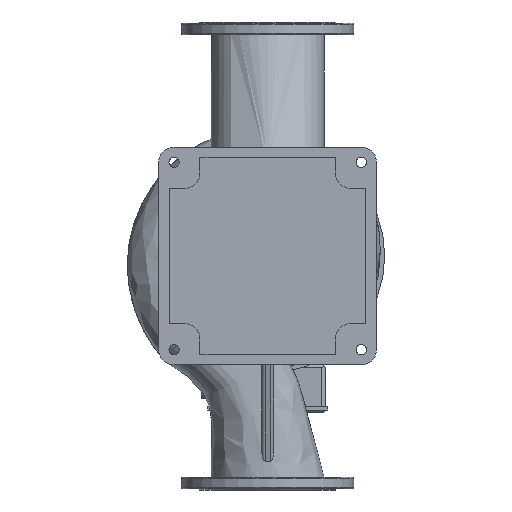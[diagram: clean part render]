
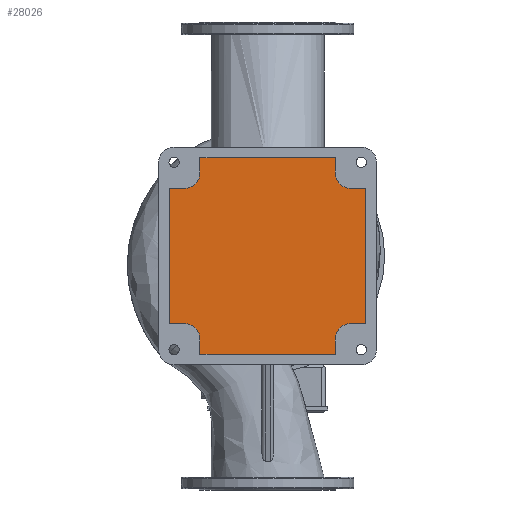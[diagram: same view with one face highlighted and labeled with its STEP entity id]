
A CAD part, front view. The second image highlights one B-rep face of the part: STEP entity #28026.
In plain terms, the highlighted planar face has unit normal (0, -1, 0).
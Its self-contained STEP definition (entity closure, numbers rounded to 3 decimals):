
#3 = ORIENTED_EDGE ( 'NONE', *, *, #24958, .T. ) ;
#26 = EDGE_CURVE ( 'NONE', #19557, #9727, #17484, .T. ) ;
#309 = DIRECTION ( 'NONE',  ( 0., 1., 0. ) ) ;
#997 = DIRECTION ( 'NONE',  ( 0., 0., 1. ) ) ;
#1230 = LINE ( 'NONE', #22549, #17184 ) ;
#1300 = CARTESIAN_POINT ( 'NONE',  ( 159., -295., 195. ) ) ;
#1336 = EDGE_CURVE ( 'NONE', #3797, #2844, #27236, .T. ) ;
#1960 = AXIS2_PLACEMENT_3D ( 'NONE', #17313, #4226, #20171 ) ;
#2122 = CARTESIAN_POINT ( 'NONE',  ( -159., -295., 231. ) ) ;
#2706 = CARTESIAN_POINT ( 'NONE',  ( 159., -295., -231. ) ) ;
#2844 = VERTEX_POINT ( 'NONE', #24965 ) ;
#3519 = VERTEX_POINT ( 'NONE', #20653 ) ;
#3797 = VERTEX_POINT ( 'NONE', #20211 ) ;
#4226 = DIRECTION ( 'NONE',  ( 0., 1., 0. ) ) ;
#5092 = EDGE_CURVE ( 'NONE', #18174, #18414, #15420, .T. ) ;
#5853 = CARTESIAN_POINT ( 'NONE',  ( -159., -295., 195. ) ) ;
#6132 = VECTOR ( 'NONE', #7943, 1000. ) ;
#6718 = EDGE_CURVE ( 'NONE', #9727, #3519, #8616, .T. ) ;
#6847 = ORIENTED_EDGE ( 'NONE', *, *, #18789, .T. ) ;
#7084 = DIRECTION ( 'NONE',  ( 0., 1., 0. ) ) ;
#7243 = EDGE_CURVE ( 'NONE', #3519, #16997, #30422, .T. ) ;
#7365 = DIRECTION ( 'NONE',  ( -1., 0., 0. ) ) ;
#7433 = VECTOR ( 'NONE', #20304, 1000. ) ;
#7636 = ORIENTED_EDGE ( 'NONE', *, *, #5092, .T. ) ;
#7642 = VECTOR ( 'NONE', #7365, 1000. ) ;
#7706 = FACE_OUTER_BOUND ( 'NONE', #26669, .T. ) ;
#7943 = DIRECTION ( 'NONE',  ( 0., 0., 1. ) ) ;
#7982 = ORIENTED_EDGE ( 'NONE', *, *, #26, .T. ) ;
#8616 = LINE ( 'NONE', #24181, #20327 ) ;
#8764 = DIRECTION ( 'NONE',  ( 0., 0., -1. ) ) ;
#9324 = VECTOR ( 'NONE', #30925, 1000. ) ;
#9727 = VERTEX_POINT ( 'NONE', #26816 ) ;
#9933 = CARTESIAN_POINT ( 'NONE',  ( -195., -295., 159. ) ) ;
#10049 = ORIENTED_EDGE ( 'NONE', *, *, #32955, .T. ) ;
#11408 = VERTEX_POINT ( 'NONE', #11908 ) ;
#11908 = CARTESIAN_POINT ( 'NONE',  ( 231., -295., -159. ) ) ;
#12589 = CARTESIAN_POINT ( 'NONE',  ( 195., -295., -159. ) ) ;
#12943 = CARTESIAN_POINT ( 'NONE',  ( -159., -295., 231. ) ) ;
#13067 = CARTESIAN_POINT ( 'NONE',  ( -195., -295., -195. ) ) ;
#13275 = VERTEX_POINT ( 'NONE', #19636 ) ;
#13349 = VERTEX_POINT ( 'NONE', #5853 ) ;
#13421 = PLANE ( 'NONE',  #33612 ) ;
#13481 = CARTESIAN_POINT ( 'NONE',  ( 159., -295., -195. ) ) ;
#13497 = CARTESIAN_POINT ( 'NONE',  ( -159., -295., -195. ) ) ;
#13621 = DIRECTION ( 'NONE',  ( 1., 0., 0. ) ) ;
#13630 = ORIENTED_EDGE ( 'NONE', *, *, #31750, .T. ) ;
#13648 = DIRECTION ( 'NONE',  ( 0., 0., -1. ) ) ;
#14021 = EDGE_CURVE ( 'NONE', #13275, #18059, #17948, .T. ) ;
#14236 = EDGE_CURVE ( 'NONE', #18414, #29049, #27107, .T. ) ;
#14300 = CARTESIAN_POINT ( 'NONE',  ( -195., -295., -159. ) ) ;
#14347 = VECTOR ( 'NONE', #26218, 1000. ) ;
#14704 = ORIENTED_EDGE ( 'NONE', *, *, #1336, .T. ) ;
#15245 = AXIS2_PLACEMENT_3D ( 'NONE', #19305, #22167, #33106 ) ;
#15420 = LINE ( 'NONE', #31897, #7642 ) ;
#16082 = VECTOR ( 'NONE', #13648, 1000. ) ;
#16577 = EDGE_CURVE ( 'NONE', #21520, #3797, #33848, .T. ) ;
#16714 = LINE ( 'NONE', #13481, #6132 ) ;
#16790 = CARTESIAN_POINT ( 'NONE',  ( -195., -295., -159. ) ) ;
#16997 = VERTEX_POINT ( 'NONE', #16790 ) ;
#17184 = VECTOR ( 'NONE', #8764, 1000. ) ;
#17313 = CARTESIAN_POINT ( 'NONE',  ( 195., -295., 195. ) ) ;
#17484 = LINE ( 'NONE', #19995, #9324 ) ;
#17662 = CARTESIAN_POINT ( 'NONE',  ( -195., -295., 195. ) ) ;
#17840 = ORIENTED_EDGE ( 'NONE', *, *, #26884, .T. ) ;
#17895 = CARTESIAN_POINT ( 'NONE',  ( 195., -295., 159. ) ) ;
#17942 = CARTESIAN_POINT ( 'NONE',  ( 195., -295., -159. ) ) ;
#17948 = CIRCLE ( 'NONE', #19656, 36. ) ;
#18059 = VERTEX_POINT ( 'NONE', #17942 ) ;
#18174 = VERTEX_POINT ( 'NONE', #34603 ) ;
#18229 = CARTESIAN_POINT ( 'NONE',  ( 159., -295., 231. ) ) ;
#18414 = VERTEX_POINT ( 'NONE', #17895 ) ;
#18789 = EDGE_CURVE ( 'NONE', #29049, #32056, #33730, .T. ) ;
#19305 = CARTESIAN_POINT ( 'NONE',  ( -195., -295., -195. ) ) ;
#19344 = VECTOR ( 'NONE', #13621, 1000. ) ;
#19557 = VERTEX_POINT ( 'NONE', #9933 ) ;
#19636 = CARTESIAN_POINT ( 'NONE',  ( 159., -295., -195. ) ) ;
#19656 = AXIS2_PLACEMENT_3D ( 'NONE', #27347, #309, #30580 ) ;
#19995 = CARTESIAN_POINT ( 'NONE',  ( -195., -295., 159. ) ) ;
#20171 = DIRECTION ( 'NONE',  ( 0., 0., 1. ) ) ;
#20203 = VECTOR ( 'NONE', #22978, 1000. ) ;
#20211 = CARTESIAN_POINT ( 'NONE',  ( -159., -295., -231. ) ) ;
#20220 = CARTESIAN_POINT ( 'NONE',  ( -159., -295., -195. ) ) ;
#20304 = DIRECTION ( 'NONE',  ( 1., 0., 0. ) ) ;
#20327 = VECTOR ( 'NONE', #27045, 1000. ) ;
#20653 = CARTESIAN_POINT ( 'NONE',  ( -231., -295., -159. ) ) ;
#21256 = EDGE_CURVE ( 'NONE', #13349, #19557, #32237, .T. ) ;
#21520 = VERTEX_POINT ( 'NONE', #13497 ) ;
#21698 = ORIENTED_EDGE ( 'NONE', *, *, #16577, .T. ) ;
#22167 = DIRECTION ( 'NONE',  ( 0., 1., 0. ) ) ;
#22549 = CARTESIAN_POINT ( 'NONE',  ( -159., -295., 195. ) ) ;
#22665 = LINE ( 'NONE', #31435, #35288 ) ;
#22978 = DIRECTION ( 'NONE',  ( 0., 0., 1. ) ) ;
#23628 = ORIENTED_EDGE ( 'NONE', *, *, #14021, .T. ) ;
#23980 = ORIENTED_EDGE ( 'NONE', *, *, #7243, .T. ) ;
#24181 = CARTESIAN_POINT ( 'NONE',  ( -231., -295., -159. ) ) ;
#24958 = EDGE_CURVE ( 'NONE', #16997, #21520, #34157, .T. ) ;
#24965 = CARTESIAN_POINT ( 'NONE',  ( 159., -295., -231. ) ) ;
#26210 = LINE ( 'NONE', #12589, #7433 ) ;
#26218 = DIRECTION ( 'NONE',  ( -1., 0., 0. ) ) ;
#26669 = EDGE_LOOP ( 'NONE', ( #3, #21698, #14704, #33610, #23628, #10049, #17840, #7636, #27606, #6847, #31481, #13630, #27071, #7982, #35148, #23980 ) ) ;
#26816 = CARTESIAN_POINT ( 'NONE',  ( -231., -295., 159. ) ) ;
#26884 = EDGE_CURVE ( 'NONE', #11408, #18174, #22665, .T. ) ;
#27045 = DIRECTION ( 'NONE',  ( 0., 0., -1. ) ) ;
#27071 = ORIENTED_EDGE ( 'NONE', *, *, #21256, .T. ) ;
#27107 = CIRCLE ( 'NONE', #1960, 36. ) ;
#27159 = EDGE_CURVE ( 'NONE', #2844, #13275, #16714, .T. ) ;
#27236 = LINE ( 'NONE', #2706, #19344 ) ;
#27347 = CARTESIAN_POINT ( 'NONE',  ( 195., -295., -195. ) ) ;
#27606 = ORIENTED_EDGE ( 'NONE', *, *, #14236, .T. ) ;
#28026 = ADVANCED_FACE ( 'NONE', ( #7706 ), #13421, .F. ) ;
#29049 = VERTEX_POINT ( 'NONE', #33557 ) ;
#29084 = LINE ( 'NONE', #12943, #14347 ) ;
#29895 = DIRECTION ( 'NONE',  ( 0., 1., 0. ) ) ;
#29969 = VERTEX_POINT ( 'NONE', #2122 ) ;
#30422 = LINE ( 'NONE', #14300, #32334 ) ;
#30580 = DIRECTION ( 'NONE',  ( 0., 0., 1. ) ) ;
#30925 = DIRECTION ( 'NONE',  ( -1., 0., 0. ) ) ;
#30957 = DIRECTION ( 'NONE',  ( 1., 0., 0. ) ) ;
#31274 = DIRECTION ( 'NONE',  ( 0., 0., 1. ) ) ;
#31435 = CARTESIAN_POINT ( 'NONE',  ( 231., -295., 159. ) ) ;
#31481 = ORIENTED_EDGE ( 'NONE', *, *, #34221, .T. ) ;
#31750 = EDGE_CURVE ( 'NONE', #29969, #13349, #1230, .T. ) ;
#31897 = CARTESIAN_POINT ( 'NONE',  ( 195., -295., 159. ) ) ;
#32056 = VERTEX_POINT ( 'NONE', #18229 ) ;
#32062 = DIRECTION ( 'NONE',  ( 0., 0., 1. ) ) ;
#32237 = CIRCLE ( 'NONE', #35108, 36. ) ;
#32334 = VECTOR ( 'NONE', #30957, 1000. ) ;
#32955 = EDGE_CURVE ( 'NONE', #18059, #11408, #26210, .T. ) ;
#33106 = DIRECTION ( 'NONE',  ( 0., 0., 1. ) ) ;
#33557 = CARTESIAN_POINT ( 'NONE',  ( 159., -295., 195. ) ) ;
#33610 = ORIENTED_EDGE ( 'NONE', *, *, #27159, .T. ) ;
#33612 = AXIS2_PLACEMENT_3D ( 'NONE', #13067, #29895, #32062 ) ;
#33730 = LINE ( 'NONE', #1300, #20203 ) ;
#33848 = LINE ( 'NONE', #20220, #16082 ) ;
#34157 = CIRCLE ( 'NONE', #15245, 36. ) ;
#34221 = EDGE_CURVE ( 'NONE', #32056, #29969, #29084, .T. ) ;
#34603 = CARTESIAN_POINT ( 'NONE',  ( 231., -295., 159. ) ) ;
#35108 = AXIS2_PLACEMENT_3D ( 'NONE', #17662, #7084, #31274 ) ;
#35148 = ORIENTED_EDGE ( 'NONE', *, *, #6718, .T. ) ;
#35288 = VECTOR ( 'NONE', #997, 1000. ) ;
